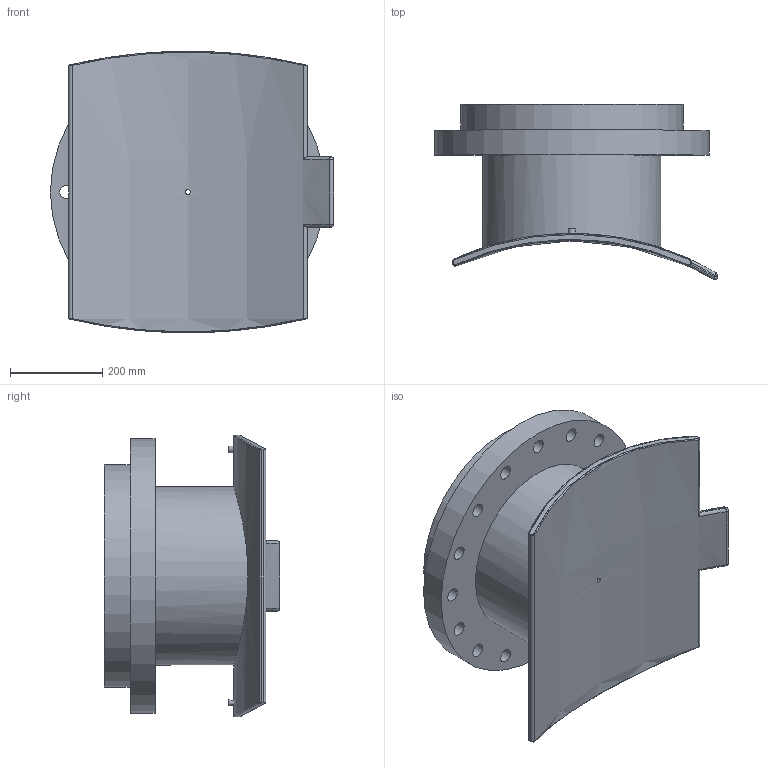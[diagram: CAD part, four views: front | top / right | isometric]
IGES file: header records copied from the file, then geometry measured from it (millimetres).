
Global section: file name: 495904_495903.ipt; native system: Autodesk Inventor 2015; preprocessor: unknown; author: KIM; date: 20190224.130009; units: millimetre
Bounding box: 613.2 x 380.11 x 609.9 mm (x, y, z)
Volume: 26250895.9 mm3; surface area: 1782563.7 mm2
Topology: 2 solids, 2 shells, 83 faces, 201 edges, 143 vertices
Faces by surface type: revolution 25, cylinder 24, plane 16, bspline 12, sphere 4, cone 2
Full cylindrical faces by diameter (mm): 4 x2, 16 x1, 385.6 x1, 482 x1, 595 x1
